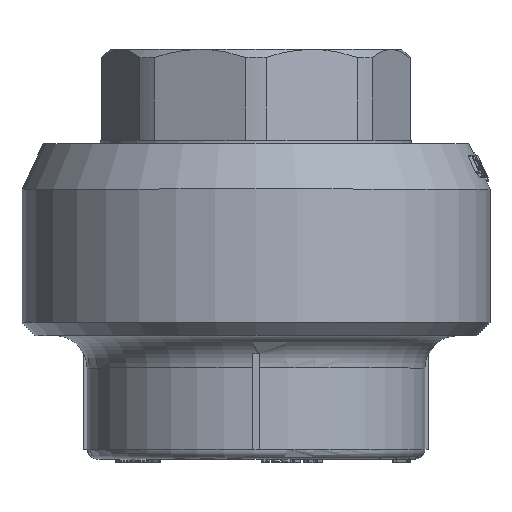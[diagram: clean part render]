
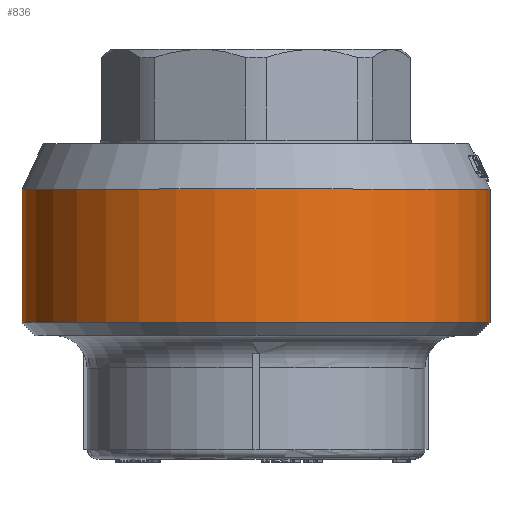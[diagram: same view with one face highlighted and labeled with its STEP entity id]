
A CAD part, top view. The second image highlights one B-rep face of the part: STEP entity #836.
In plain terms, the highlighted cylindrical face has radius 36 mm (diameter 72 mm), a full revolution.
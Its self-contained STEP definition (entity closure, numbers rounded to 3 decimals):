
#836=ADVANCED_FACE('',(#5047,#5049),#5051,.T.);
#5047=FACE_OUTER_BOUND('',#5048,.T.);
#5048=EDGE_LOOP('',(#11473));
#5049=FACE_OUTER_BOUND('',#5050,.T.);
#5050=EDGE_LOOP('',(#11474));
#5051=CYLINDRICAL_SURFACE('',#5052,36.);
#5052=AXIS2_PLACEMENT_3D('',#5053,#5054,#5055);
#5053=CARTESIAN_POINT('',(0.,19.,0.));
#5054=DIRECTION('',(0.,1.,0.));
#5055=DIRECTION('',(-1.,0.,0.));
#11473=ORIENTED_EDGE('',*,*,#14840,.T.);
#11474=ORIENTED_EDGE('',*,*,#14838,.T.);
#14838=EDGE_CURVE('',#18259,#18259,#18260,.T.);
#14840=EDGE_CURVE('',#18263,#18263,#18264,.T.);
#18259=VERTEX_POINT('',#25646);
#18260=CIRCLE('',#25647,36.);
#18263=VERTEX_POINT('',#25656);
#18264=CIRCLE('',#25657,36.);
#25646=CARTESIAN_POINT('',(-36.,21.,0.));
#25647=AXIS2_PLACEMENT_3D('',#25648,#25649,#25650);
#25648=CARTESIAN_POINT('',(0.,21.,0.));
#25649=DIRECTION('',(0.,1.,0.));
#25650=DIRECTION('',(-1.,0.,0.));
#25656=CARTESIAN_POINT('',(-36.,41.5,0.));
#25657=AXIS2_PLACEMENT_3D('',#25658,#25659,#25660);
#25658=CARTESIAN_POINT('',(0.,41.5,0.));
#25659=DIRECTION('',(0.,-1.,0.));
#25660=DIRECTION('',(-1.,0.,0.));
